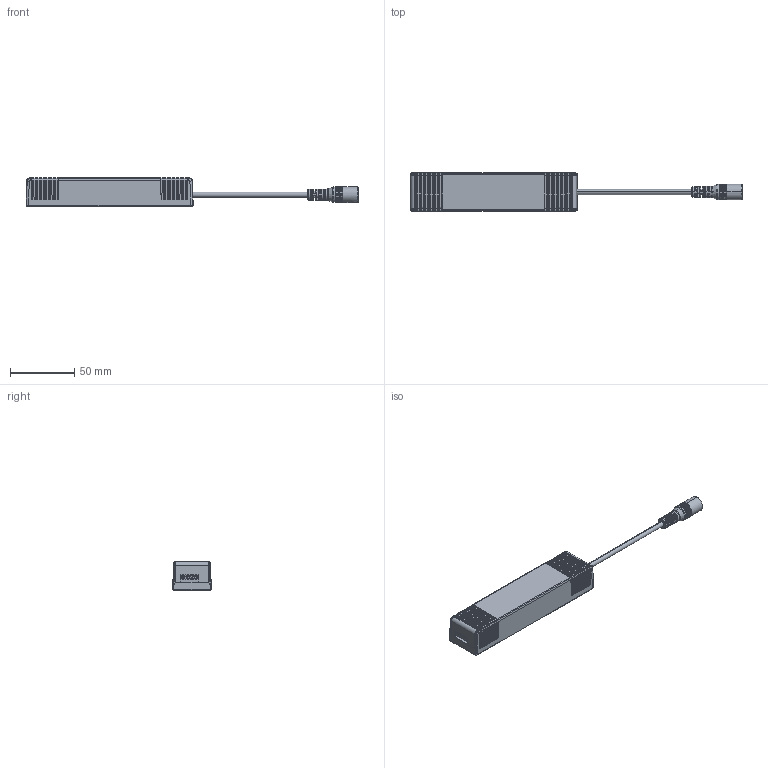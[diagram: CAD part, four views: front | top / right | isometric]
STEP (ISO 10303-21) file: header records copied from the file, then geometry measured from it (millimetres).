
FILE_DESCRIPTION (( 'STEP AP214' ), '1' );
FILE_NAME ('9C1-4554639-EN-00.STEP', '2026-01-21T08:45:38', ( '' ), ( '' ), 'SwSTEP 2.0', 'SolidWorks 2023', '' );
FILE_SCHEMA (( 'AUTOMOTIVE_DESIGN' ));
Length unit declared in the file: millimetre
Products named in the file (1): 9C1-4554639-EN-00
Bounding box: 258.15 x 29.96 x 22.2 mm (x, y, z)
Volume: 74447.2 mm3; surface area: 32338.5 mm2
Topology: 16 solids, 23 shells, 2002 faces, 5513 edges, 3613 vertices
Faces by surface type: plane 1424, cylinder 416, bspline 109, cone 49, torus 2, sphere 2
Entity records: 71644 total; most frequent: CARTESIAN_POINT 15478, ORIENTED_EDGE 11010, DIRECTION 9550, EDGE_CURVE 5505, LINE 4202, VECTOR 4202, VERTEX_POINT 3611, AXIS2_PLACEMENT_3D 2674
